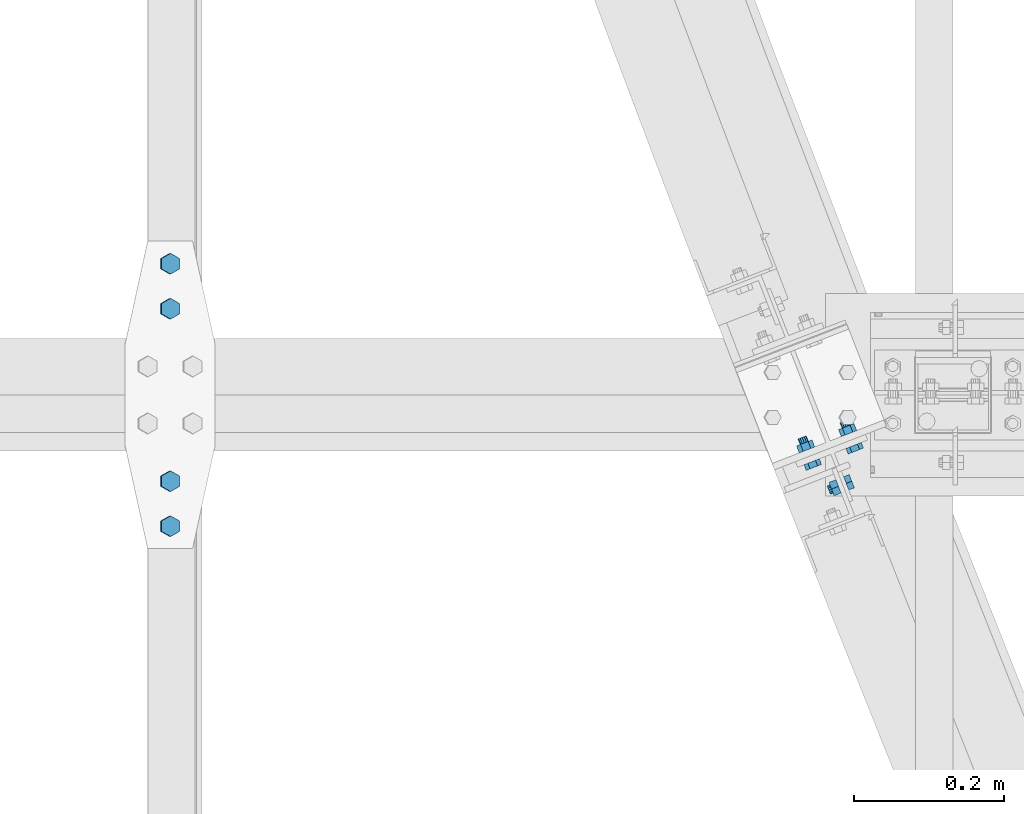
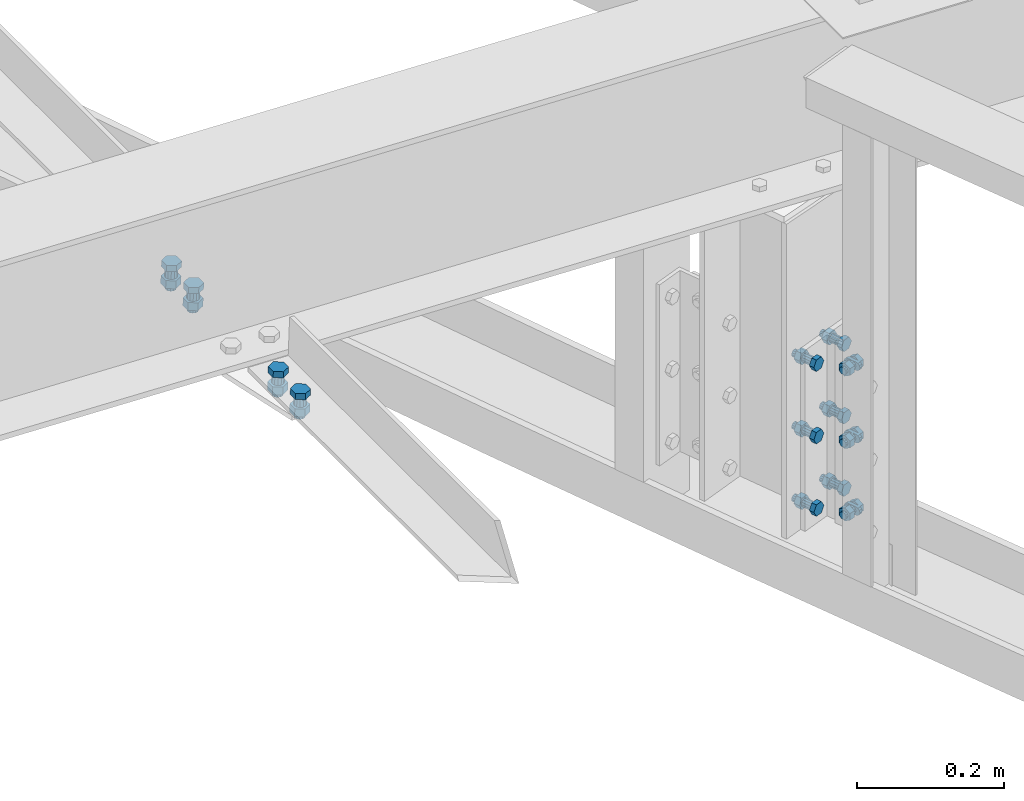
# One storey, part 43 of 3134: 4 mechanical fasteners, 4 elements without a shape of their own.
"""IFC2X3 building model written with IfcOpenShell, lengths in millimetres."""

from ifc_helpers import new_model, si_unit, frame, origin_with_axes, place, context, subcontext, project, spatial, faceted_brep, source, transform, mapped, material, type_object, element, aggregate, save


model = new_model("IFC2X3")

# Units and contexts
model_context = context("Model", 3, precision=1e-05, world=origin_with_axes())
body_context = subcontext(model_context, "Body", "Model", "MODEL_VIEW")
ifc_project = project(units=[si_unit("LENGTHUNIT", "METRE", prefix="MILLI"), si_unit("AREAUNIT", "SQUARE_METRE"), si_unit("VOLUMEUNIT", "CUBIC_METRE"), si_unit("MASSUNIT", "GRAM", prefix="KILO"), si_unit("TIMEUNIT", "SECOND"), si_unit("PLANEANGLEUNIT", "RADIAN"), si_unit("SOLIDANGLEUNIT", "STERADIAN"), si_unit("THERMODYNAMICTEMPERATUREUNIT", "DEGREE_CELSIUS"), si_unit("LUMINOUSINTENSITYUNIT", "LUMEN")], contexts=[model_context])

# Site, building, storey
site_placement = place(None, origin_with_axes())
site = spatial("IfcSite", under=ifc_project, at=site_placement, CompositionType="ELEMENT")
building_placement = place(site_placement, origin_with_axes())
building = spatial("IfcBuilding", under=site, at=building_placement, Name="Undefined", CompositionType="ELEMENT")
storey_placement = place(building_placement, origin_with_axes())
storey = spatial("IfcBuildingStorey", under=building, at=storey_placement, Name="Undefined", CompositionType="ELEMENT", Elevation=0.0)

# Assembly, mechanical fastener
assembly_1_placement = place(storey_placement, origin_with_axes())
assembly_1 = element("IfcElementAssembly", 1, at=assembly_1_placement, inside=storey, AssemblyPlace="NOTDEFINED", PredefinedType="RIGID_FRAME")
ifc_material = material(Name="8.8")
mechanical_fastener_type = type_object("IfcMechanicalFastenerType", Name="Bolt assembly")
shared_shape_1 = source(origin_with_axes(), body_context, "Body", "Brep", [
    faceted_brep([(10.9696551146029, -10.499999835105, 0.0), (5.48482755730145, -10.499999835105, 9.5), (-5.48482755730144, -10.499999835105, 9.5), (-10.9696551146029, -10.499999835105, 1.34339530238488e-15), (-5.48482755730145, -10.499999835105, -9.5), (5.48482755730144, -10.499999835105, -9.50000000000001), (5.48482755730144, -2.49999983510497, -9.50000000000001), (-5.48482755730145, -2.49999983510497, -9.5), (-10.9696551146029, -2.49999983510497, 1.34339530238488e-15), (-5.48482755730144, -2.49999983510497, 9.5), (5.48482755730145, -2.49999983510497, 9.5), (10.9696551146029, -2.49999983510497, 0.0), (6.0, -2.49999983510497, 0.0), (5.19615242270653, -2.49999983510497, 3.00000000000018), (2.99999999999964, -2.49999983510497, 5.19615242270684), (-6.21801588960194e-13, -2.49999983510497, 6.0), (-3.00000000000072, -2.49999983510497, 5.19615242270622), (-5.19615242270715, -2.49999983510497, 2.9999999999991), (-6.0, -2.49999983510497, -1.24360317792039e-12), (-5.19615242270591, -2.49999983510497, -3.00000000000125), (-2.99999999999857, -2.49999983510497, -5.19615242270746), (1.85874342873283e-12, -2.49999983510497, -6.0), (3.00000000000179, -2.49999983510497, -5.1961524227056), (5.19615242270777, -2.49999983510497, -2.99999999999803), (5.19615242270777, 22.5, -2.99999999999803), (3.00000000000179, 22.5, -5.1961524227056), (1.85874342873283e-12, 22.5, -6.0), (-2.99999999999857, 22.5, -5.19615242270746), (-5.19615242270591, 22.5, -3.00000000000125), (-6.0, 22.5, -1.24360317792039e-12), (-5.19615242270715, 22.5, 2.9999999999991), (-3.00000000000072, 22.5, 5.19615242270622), (-6.21801588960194e-13, 22.5, 6.0), (2.99999999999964, 22.5, 5.19615242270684), (5.19615242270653, 22.5, 3.00000000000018), (6.0, 22.5, 0.0), (10.9696551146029, 8.50160430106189, 0.0), (5.48482755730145, 8.50160430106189, 9.5), (-5.48482755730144, 8.50160430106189, 9.5), (-10.9696551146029, 8.50160430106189, 1.34339530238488e-15), (-5.48482755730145, 8.50160430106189, -9.5), (5.48482755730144, 8.50160430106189, -9.50000000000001), (5.48482755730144, 18.5016043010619, -9.50000000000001), (-5.48482755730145, 18.5016043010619, -9.5), (-10.9696551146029, 18.5016043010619, 1.34339530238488e-15), (-5.48482755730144, 18.5016043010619, 9.5), (5.48482755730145, 18.5016043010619, 9.5), (10.9696551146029, 18.5016043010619, 0.0)], [[[0, 1, 2, 3, 4, 5]], [[6, 7, 8, 9, 10, 11]], [[0, 11, 10, 1]], [[1, 10, 9, 2]], [[2, 9, 8, 3]], [[3, 8, 7, 4]], [[4, 7, 6, 5]], [[5, 6, 11, 0]], [[12, 13, 14, 15, 16, 17, 18, 19, 20, 21, 22, 23]], [[24, 25, 26, 27, 28, 29, 30, 31, 32, 33, 34, 35]], [[12, 35, 34, 13]], [[13, 34, 33, 14]], [[14, 33, 32, 15]], [[15, 32, 31, 16]], [[16, 31, 30, 17]], [[17, 30, 29, 18]], [[18, 29, 28, 19]], [[19, 28, 27, 20]], [[20, 27, 26, 21]], [[21, 26, 25, 22]], [[22, 25, 24, 23]], [[23, 24, 35, 12]], [[36, 37, 38, 39, 40, 41]], [[42, 43, 44, 45, 46, 47]], [[36, 47, 46, 37]], [[37, 46, 45, 38]], [[38, 45, 44, 39]], [[39, 44, 43, 40]], [[40, 43, 42, 41]], [[41, 42, 47, 36]]]),
    faceted_brep([(7.0, -2.39999983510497, 7.0), (6.46715672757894, -2.39999983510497, 9.6787840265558), (4.94974746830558, -2.39999983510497, 11.9497474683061), (-7.25435187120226e-13, -2.39999983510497, 14.0), (-3.50000000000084, -2.39999983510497, 13.0621778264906), (-6.06217782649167, -2.39999983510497, 10.499999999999), (-7.0, -2.39999983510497, 6.99999999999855), (-7.0, -2.39999983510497, -7.00000000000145), (-6.06217782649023, -2.39999983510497, -10.5000000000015), (-3.49999999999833, -2.39999983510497, -13.062177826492), (2.1685340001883e-12, -2.39999983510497, -14.0), (3.50000000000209, -2.39999983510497, -13.0621778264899), (6.0621778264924, -2.39999983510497, -10.4999999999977), (7.0, -2.39999983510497, -6.9999999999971), (7.0, 2.60000016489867, -6.9999999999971), (6.0621778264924, 2.60000016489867, -10.4999999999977), (3.50000000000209, 2.60000016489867, -13.0621778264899), (2.1685340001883e-12, 2.60000016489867, -14.0), (-3.49999999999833, 2.60000016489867, -13.062177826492), (-6.06217782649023, 2.60000016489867, -10.5000000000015), (-7.0, 2.60000016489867, -7.00000000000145), (-7.0, 2.60000016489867, 6.99999999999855), (-6.06217782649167, 2.60000016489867, 10.499999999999), (-3.50000000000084, 2.60000016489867, 13.0621778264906), (-7.25435187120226e-13, 2.60000016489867, 14.0), (2.67878402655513, 2.60000016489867, 13.4671567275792), (4.94974746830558, 2.60000016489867, 11.9497474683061), (6.46715672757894, 2.60000016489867, 9.6787840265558), (7.0, 2.60000016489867, 7.0), (2.67878402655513, -2.39999983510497, 13.4671567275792), (7.0, 2.40160430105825, 0.0), (6.06217782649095, 2.40160430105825, 3.50000000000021), (3.49999999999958, 2.40160430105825, 6.06217782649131), (-7.25435187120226e-13, 2.40160430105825, 7.0), (-3.50000000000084, 2.40160430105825, 6.06217782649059), (-6.06217782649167, 2.40160430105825, 3.49999999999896), (-7.0, 2.40160430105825, -1.45087037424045e-12), (-6.06217782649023, 2.40160430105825, -3.50000000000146), (-3.49999999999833, 2.40160430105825, -6.06217782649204), (2.1685340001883e-12, 2.40160430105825, -7.0), (3.50000000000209, 2.40160430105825, -6.06217782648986), (6.0621778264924, 2.40160430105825, -3.4999999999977), (6.0621778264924, 8.50160430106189, -3.4999999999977), (3.50000000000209, 8.50160430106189, -6.06217782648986), (2.1685340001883e-12, 8.50160430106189, -7.0), (-3.49999999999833, 8.50160430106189, -6.06217782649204), (-6.06217782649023, 8.50160430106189, -3.50000000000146), (-7.0, 8.50160430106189, -1.45087037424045e-12), (-6.06217782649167, 8.50160430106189, 3.49999999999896), (-3.50000000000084, 8.50160430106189, 6.06217782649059), (-7.25435187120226e-13, 8.50160430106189, 7.0), (3.49999999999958, 8.50160430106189, 6.06217782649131), (6.06217782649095, 8.50160430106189, 3.50000000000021), (7.0, 8.50160430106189, 0.0)], [[[0, 1, 2, 3, 4, 5, 6, 7, 8, 9, 10, 11, 12, 13]], [[14, 15, 16, 17, 18, 19, 20, 21, 22, 23, 24, 25, 26, 27, 28]], [[0, 28, 27, 1]], [[1, 27, 26, 2]], [[2, 26, 25, 29]], [[29, 25, 24, 3]], [[3, 24, 23, 4]], [[4, 23, 22, 5]], [[5, 22, 21, 6]], [[6, 21, 20, 7]], [[7, 20, 19, 8]], [[8, 19, 18, 9]], [[9, 18, 17, 10]], [[10, 17, 16, 11]], [[11, 16, 15, 12]], [[12, 15, 14, 13]], [[13, 14, 28, 0]], [[30, 31, 32, 33, 34, 35, 36, 37, 38, 39, 40, 41]], [[42, 43, 44, 45, 46, 47, 48, 49, 50, 51, 52, 53]], [[30, 53, 52, 31]], [[31, 52, 51, 32]], [[32, 51, 50, 33]], [[33, 50, 49, 34]], [[34, 49, 48, 35]], [[35, 48, 47, 36]], [[36, 47, 46, 37]], [[37, 46, 45, 38]], [[38, 45, 44, 39]], [[39, 44, 43, 40]], [[40, 43, 42, 41]], [[41, 42, 53, 30]]]),
])
mechanical_fastener_1_placement = place(assembly_1_placement, frame((5546.88789663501, 17201.1812489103, 3290.00065963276), z_axis=(-0.36275923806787, 0.931882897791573, 0.0), x_axis=(0.0, 0.0, -1.0)))
mechanical_fastener_1 = element("IfcMechanicalFastener", 2, at=mechanical_fastener_1_placement, type_object=mechanical_fastener_type, material=ifc_material, Name="Bolt assembly", NominalDiameter=12.0, NominalLength=25.0, context=body_context, shape_type="MappedRepresentation", body=[
    mapped(shared_shape_1, transform((0.0, 0.0, 0.0))),
    mapped(shared_shape_1, transform((120.0, 0.0, 0.0))),
    mapped(shared_shape_1, transform((240.0, 0.0, 0.0))),
])
aggregate(assembly_1, [mechanical_fastener_1])

assembly_2_placement = place(storey_placement, origin_with_axes())
assembly_2 = element("IfcElementAssembly", 3, at=assembly_2_placement, inside=storey, Name="HEA160", AssemblyPlace="NOTDEFINED", PredefinedType="RIGID_FRAME")
shared_shape_2 = source(origin_with_axes(), body_context, "Body", "Brep", [
    faceted_brep([(10.9696551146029, -16.0, 0.0), (5.48482755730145, -16.0, 9.5), (-5.48482755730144, -16.0, 9.5), (-10.9696551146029, -16.0, 1.34339530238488e-15), (-5.48482755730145, -16.0, -9.5), (5.48482755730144, -16.0, -9.50000000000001), (5.48482755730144, -8.0, -9.50000000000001), (-5.48482755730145, -8.0, -9.5), (-10.9696551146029, -8.0, 1.34339530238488e-15), (-5.48482755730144, -8.0, 9.5), (5.48482755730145, -8.0, 9.5), (10.9696551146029, -8.0, 0.0), (6.0, -8.0, 0.0), (5.19615242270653, -8.0, 3.00000000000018), (2.99999999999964, -8.0, 5.19615242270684), (-6.21801588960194e-13, -8.0, 6.0), (-3.00000000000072, -8.0, 5.19615242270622), (-5.19615242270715, -8.0, 2.9999999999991), (-6.0, -8.0, -1.24360317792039e-12), (-5.19615242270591, -8.0, -3.00000000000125), (-2.99999999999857, -8.0, -5.19615242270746), (1.85874342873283e-12, -8.0, -6.0), (3.00000000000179, -8.0, -5.1961524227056), (5.19615242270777, -8.0, -2.99999999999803), (5.19615242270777, 27.0, -2.99999999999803), (3.00000000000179, 27.0, -5.1961524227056), (1.85874342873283e-12, 27.0, -6.0), (-2.99999999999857, 27.0, -5.19615242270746), (-5.19615242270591, 27.0, -3.00000000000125), (-6.0, 27.0, -1.24360317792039e-12), (-5.19615242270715, 27.0, 2.9999999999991), (-3.00000000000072, 27.0, 5.19615242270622), (-6.21801588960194e-13, 27.0, 6.0), (2.99999999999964, 27.0, 5.19615242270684), (5.19615242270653, 27.0, 3.00000000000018), (6.0, 27.0, 0.0), (10.9696551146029, 9.00000000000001, 0.0), (5.48482755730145, 9.00000000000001, 9.5), (-5.48482755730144, 9.00000000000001, 9.5), (-10.9696551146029, 9.00000000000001, 1.34339530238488e-15), (-5.48482755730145, 9.00000000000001, -9.5), (5.48482755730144, 9.00000000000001, -9.50000000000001), (5.48482755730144, 19.0, -9.50000000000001), (-5.48482755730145, 19.0, -9.5), (-10.9696551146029, 19.0, 1.34339530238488e-15), (-5.48482755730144, 19.0, 9.5), (5.48482755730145, 19.0, 9.5), (10.9696551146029, 19.0, 0.0)], [[[0, 1, 2, 3, 4, 5]], [[6, 7, 8, 9, 10, 11]], [[0, 11, 10, 1]], [[1, 10, 9, 2]], [[2, 9, 8, 3]], [[3, 8, 7, 4]], [[4, 7, 6, 5]], [[5, 6, 11, 0]], [[12, 13, 14, 15, 16, 17, 18, 19, 20, 21, 22, 23]], [[24, 25, 26, 27, 28, 29, 30, 31, 32, 33, 34, 35]], [[12, 35, 34, 13]], [[13, 34, 33, 14]], [[14, 33, 32, 15]], [[15, 32, 31, 16]], [[16, 31, 30, 17]], [[17, 30, 29, 18]], [[18, 29, 28, 19]], [[19, 28, 27, 20]], [[20, 27, 26, 21]], [[21, 26, 25, 22]], [[22, 25, 24, 23]], [[23, 24, 35, 12]], [[36, 37, 38, 39, 40, 41]], [[42, 43, 44, 45, 46, 47]], [[36, 47, 46, 37]], [[37, 46, 45, 38]], [[38, 45, 44, 39]], [[39, 44, 43, 40]], [[40, 43, 42, 41]], [[41, 42, 47, 36]]]),
    faceted_brep([(7.0, -7.9, 0.0), (6.06217782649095, -7.9, 3.50000000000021), (3.49999999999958, -7.9, 6.06217782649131), (-7.25435187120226e-13, -7.9, 7.0), (-3.50000000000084, -7.9, 6.06217782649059), (-6.06217782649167, -7.9, 3.49999999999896), (-7.0, -7.9, -1.45087037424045e-12), (-6.06217782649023, -7.9, -3.50000000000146), (-3.49999999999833, -7.9, -6.06217782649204), (2.1685340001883e-12, -7.9, -7.0), (3.50000000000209, -7.9, -6.06217782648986), (6.0621778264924, -7.9, -3.4999999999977), (6.0621778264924, 0.0999999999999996, -3.4999999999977), (3.50000000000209, 0.0999999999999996, -6.06217782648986), (2.1685340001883e-12, 0.0999999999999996, -7.0), (-3.49999999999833, 0.0999999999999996, -6.06217782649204), (-6.06217782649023, 0.0999999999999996, -3.50000000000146), (-7.0, 0.0999999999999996, -1.45087037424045e-12), (-6.06217782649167, 0.0999999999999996, 3.49999999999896), (-3.50000000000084, 0.0999999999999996, 6.06217782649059), (-7.25435187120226e-13, 0.0999999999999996, 7.0), (3.49999999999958, 0.0999999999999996, 6.06217782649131), (6.06217782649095, 0.0999999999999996, 3.50000000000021), (7.0, 0.0999999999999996, 0.0), (7.0, -0.1, 0.0), (6.06217782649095, -0.1, 3.50000000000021), (3.49999999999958, -0.1, 6.06217782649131), (-7.25435187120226e-13, -0.1, 7.0), (-3.50000000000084, -0.1, 6.06217782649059), (-6.06217782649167, -0.1, 3.49999999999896), (-7.0, -0.1, -1.45087037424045e-12), (-6.06217782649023, -0.1, -3.50000000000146), (-3.49999999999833, -0.1, -6.06217782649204), (2.1685340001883e-12, -0.1, -7.0), (3.50000000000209, -0.1, -6.06217782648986), (6.0621778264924, -0.1, -3.4999999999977), (6.0621778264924, 9.00000000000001, -3.4999999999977), (3.50000000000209, 9.00000000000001, -6.06217782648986), (2.1685340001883e-12, 9.00000000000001, -7.0), (-3.49999999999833, 9.00000000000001, -6.06217782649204), (-6.06217782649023, 9.00000000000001, -3.50000000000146), (-7.0, 9.00000000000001, -1.45087037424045e-12), (-6.06217782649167, 9.00000000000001, 3.49999999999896), (-3.50000000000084, 9.00000000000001, 6.06217782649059), (-7.25435187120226e-13, 9.00000000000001, 7.0), (3.49999999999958, 9.00000000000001, 6.06217782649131), (6.06217782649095, 9.00000000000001, 3.50000000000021), (7.0, 9.00000000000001, 0.0)], [[[0, 1, 2, 3, 4, 5, 6, 7, 8, 9, 10, 11]], [[12, 13, 14, 15, 16, 17, 18, 19, 20, 21, 22, 23]], [[0, 23, 22, 1]], [[1, 22, 21, 2]], [[2, 21, 20, 3]], [[3, 20, 19, 4]], [[4, 19, 18, 5]], [[5, 18, 17, 6]], [[6, 17, 16, 7]], [[7, 16, 15, 8]], [[8, 15, 14, 9]], [[9, 14, 13, 10]], [[10, 13, 12, 11]], [[11, 12, 23, 0]], [[24, 25, 26, 27, 28, 29, 30, 31, 32, 33, 34, 35]], [[36, 37, 38, 39, 40, 41, 42, 43, 44, 45, 46, 47]], [[24, 47, 46, 25]], [[25, 46, 45, 26]], [[26, 45, 44, 27]], [[27, 44, 43, 28]], [[28, 43, 42, 29]], [[29, 42, 41, 30]], [[30, 41, 40, 31]], [[31, 40, 39, 32]], [[32, 39, 38, 33]], [[33, 38, 37, 34]], [[34, 37, 36, 35]], [[35, 36, 47, 24]]]),
])
mechanical_fastener_2_placement = place(assembly_2_placement, frame((5500.24787318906, 17238.2941225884, 3170.0), z_axis=(0.0, 0.0, 1.0), x_axis=(0.931882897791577, 0.362759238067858, 0.0)))
mechanical_fastener_2 = element("IfcMechanicalFastener", 4, at=mechanical_fastener_2_placement, type_object=mechanical_fastener_type, material=ifc_material, Name="Bolt assembly", NominalDiameter=12.0, NominalLength=35.0, context=body_context, shape_type="MappedRepresentation", body=[
    mapped(shared_shape_2, transform((0.0, 0.0, -120.0))),
    mapped(shared_shape_2, transform((60.0000000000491, 0.0, -120.0))),
    mapped(shared_shape_2, transform((0.0, 0.0, 0.0))),
    mapped(shared_shape_2, transform((59.9999999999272, 0.0, 5.40239852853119e-10))),
    mapped(shared_shape_2, transform((0.0, 0.0, 120.0))),
    mapped(shared_shape_2, transform((60.0000000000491, 0.0, 120.0))),
])
aggregate(assembly_2, [mechanical_fastener_2])

assembly_3_placement = place(storey_placement, origin_with_axes())
assembly_3 = element("IfcElementAssembly", 5, at=assembly_3_placement, inside=storey, Name="PL8", AssemblyPlace="NOTDEFINED", PredefinedType="RIGID_FRAME")
shared_shape_3 = source(origin_with_axes(), body_context, "Body", "Brep", [
    faceted_brep([(13.856406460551, -21.0000017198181, 0.0), (6.92820323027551, -21.0000017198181, 12.0), (-6.92820323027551, -21.0000017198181, 12.0), (-13.856406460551, -21.0000017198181, 1.69692038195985e-15), (-6.92820323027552, -21.0000017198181, -12.0), (6.9282032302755, -21.0000017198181, -12.0), (6.9282032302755, -11.0000017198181, -12.0), (-6.92820323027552, -11.0000017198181, -12.0), (-13.856406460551, -11.0000017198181, 1.69692038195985e-15), (-6.92820323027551, -11.0000017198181, 12.0), (6.92820323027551, -11.0000017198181, 12.0), (13.856406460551, -11.0000017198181, 0.0), (8.0, -11.0000017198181, 0.0), (6.92820323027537, -11.0000017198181, 4.00000000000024), (3.99999999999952, -11.0000017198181, 6.92820323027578), (-8.29068785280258e-13, -11.0000017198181, 8.0), (-4.00000000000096, -11.0000017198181, 6.92820323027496), (-6.9282032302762, -11.0000017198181, 3.99999999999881), (-8.0, -11.0000017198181, -1.65813757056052e-12), (-6.92820323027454, -11.0000017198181, -4.00000000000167), (-3.99999999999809, -11.0000017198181, -6.92820323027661), (2.47832457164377e-12, -11.0000017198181, -8.0), (4.00000000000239, -11.0000017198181, -6.92820323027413), (6.92820323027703, -11.0000017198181, -3.99999999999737), (6.92820323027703, 23.9999999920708, -3.99999999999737), (4.00000000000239, 23.9999999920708, -6.92820323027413), (2.47832457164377e-12, 23.9999999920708, -8.0), (-3.99999999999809, 23.9999999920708, -6.92820323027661), (-6.92820323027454, 23.9999999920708, -4.00000000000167), (-8.0, 23.9999999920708, -1.65813757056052e-12), (-6.9282032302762, 23.9999999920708, 3.99999999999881), (-4.00000000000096, 23.9999999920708, 6.92820323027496), (-8.29068785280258e-13, 23.9999999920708, 8.0), (3.99999999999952, 23.9999999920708, 6.92820323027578), (6.92820323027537, 23.9999999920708, 4.00000000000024), (8.0, 23.9999999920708, 0.0), (13.856406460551, 3.99999999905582, 0.0), (6.92820323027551, 3.99999999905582, 12.0), (-6.92820323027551, 3.99999999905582, 12.0), (-13.856406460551, 3.99999999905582, 1.69692038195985e-15), (-6.92820323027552, 3.99999999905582, -12.0), (6.9282032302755, 3.99999999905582, -12.0), (6.9282032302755, 16.9999999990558, -12.0), (-6.92820323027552, 16.9999999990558, -12.0), (-13.856406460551, 16.9999999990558, 1.69692038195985e-15), (-6.92820323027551, 16.9999999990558, 12.0), (6.92820323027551, 16.9999999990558, 12.0), (13.856406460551, 16.9999999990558, 0.0)], [[[0, 1, 2, 3, 4, 5]], [[6, 7, 8, 9, 10, 11]], [[0, 11, 10, 1]], [[1, 10, 9, 2]], [[2, 9, 8, 3]], [[3, 8, 7, 4]], [[4, 7, 6, 5]], [[5, 6, 11, 0]], [[12, 13, 14, 15, 16, 17, 18, 19, 20, 21, 22, 23]], [[24, 25, 26, 27, 28, 29, 30, 31, 32, 33, 34, 35]], [[12, 35, 34, 13]], [[13, 34, 33, 14]], [[14, 33, 32, 15]], [[15, 32, 31, 16]], [[16, 31, 30, 17]], [[17, 30, 29, 18]], [[18, 29, 28, 19]], [[19, 28, 27, 20]], [[20, 27, 26, 21]], [[21, 26, 25, 22]], [[22, 25, 24, 23]], [[23, 24, 35, 12]], [[36, 37, 38, 39, 40, 41]], [[42, 43, 44, 45, 46, 47]], [[36, 47, 46, 37]], [[37, 46, 45, 38]], [[38, 45, 44, 39]], [[39, 44, 43, 40]], [[40, 43, 42, 41]], [[41, 42, 47, 36]]]),
    faceted_brep([(9.0, -10.9000017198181, 0.0), (7.79422863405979, -10.9000017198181, 4.50000000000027), (4.49999999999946, -10.9000017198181, 7.79422863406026), (-9.3270238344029e-13, -10.9000017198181, 9.0), (-4.50000000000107, -10.9000017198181, 7.79422863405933), (-7.79422863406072, -10.9000017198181, 4.49999999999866), (-9.0, -10.9000017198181, -1.86540476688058e-12), (-7.79422863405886, -10.9000017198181, -4.50000000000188), (-4.49999999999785, -10.9000017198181, -7.79422863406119), (2.78811514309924e-12, -10.9000017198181, -9.0), (4.50000000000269, -10.9000017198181, -7.7942286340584), (7.79422863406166, -10.9000017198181, -4.49999999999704), (7.79422863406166, -3.9, -4.49999999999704), (4.50000000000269, -3.9, -7.7942286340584), (2.78811514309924e-12, -3.9, -9.0), (-4.49999999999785, -3.9, -7.79422863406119), (-7.79422863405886, -3.9, -4.50000000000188), (-9.0, -3.9, -1.86540476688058e-12), (-7.79422863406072, -3.9, 4.49999999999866), (-4.50000000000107, -3.9, 7.79422863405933), (-9.3270238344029e-13, -3.9, 9.0), (4.49999999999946, -3.9, 7.79422863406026), (7.79422863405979, -3.9, 4.50000000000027), (9.0, -3.9, 0.0), (9.0, -4.10000000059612, 0.0), (7.79422863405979, -4.10000000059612, 4.50000000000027), (4.49999999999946, -4.10000000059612, 7.79422863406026), (-9.3270238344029e-13, -4.10000000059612, 9.0), (-4.50000000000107, -4.10000000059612, 7.79422863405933), (-7.79422863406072, -4.10000000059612, 4.49999999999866), (-9.0, -4.10000000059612, -1.86540476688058e-12), (-7.79422863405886, -4.10000000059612, -4.50000000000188), (-4.49999999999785, -4.10000000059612, -7.79422863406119), (2.78811514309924e-12, -4.10000000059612, -9.0), (4.50000000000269, -4.10000000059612, -7.7942286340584), (7.79422863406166, -4.10000000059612, -4.49999999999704), (7.79422863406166, 4.00000375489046, -4.49999999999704), (4.50000000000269, 4.00000375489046, -7.7942286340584), (2.78811514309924e-12, 4.00000375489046, -9.0), (-4.49999999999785, 4.00000375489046, -7.79422863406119), (-7.79422863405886, 4.00000375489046, -4.50000000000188), (-9.0, 4.00000375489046, -1.86540476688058e-12), (-7.79422863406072, 4.00000375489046, 4.49999999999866), (-4.50000000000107, 4.00000375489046, 7.79422863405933), (-9.3270238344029e-13, 4.00000375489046, 9.0), (4.49999999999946, 4.00000375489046, 7.79422863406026), (7.79422863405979, 4.00000375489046, 4.50000000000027), (9.0, 4.00000375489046, 0.0)], [[[0, 1, 2, 3, 4, 5, 6, 7, 8, 9, 10, 11]], [[12, 13, 14, 15, 16, 17, 18, 19, 20, 21, 22, 23]], [[0, 23, 22, 1]], [[1, 22, 21, 2]], [[2, 21, 20, 3]], [[3, 20, 19, 4]], [[4, 19, 18, 5]], [[5, 18, 17, 6]], [[6, 17, 16, 7]], [[7, 16, 15, 8]], [[8, 15, 14, 9]], [[9, 14, 13, 10]], [[10, 13, 12, 11]], [[11, 12, 23, 0]], [[24, 25, 26, 27, 28, 29, 30, 31, 32, 33, 34, 35]], [[36, 37, 38, 39, 40, 41, 42, 43, 44, 45, 46, 47]], [[24, 47, 46, 25]], [[25, 46, 45, 26]], [[26, 45, 44, 27]], [[27, 44, 43, 28]], [[28, 43, 42, 29]], [[29, 42, 41, 30]], [[30, 41, 40, 31]], [[31, 40, 39, 32]], [[32, 39, 38, 33]], [[33, 38, 37, 34]], [[34, 37, 36, 35]], [[35, 36, 47, 24]]]),
])
mechanical_fastener_3_placement = place(assembly_3_placement, frame((4647.50483525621, 17435.0, 3576.15051900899), z_axis=(-0.999388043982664, 0.0, 0.0349791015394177), x_axis=(0.0, 1.0, 0.0)))
mechanical_fastener_3 = element("IfcMechanicalFastener", 6, at=mechanical_fastener_3_placement, type_object=mechanical_fastener_type, material=ifc_material, Name="Bolt assembly", NominalDiameter=16.0, NominalLength=35.0, context=body_context, shape_type="MappedRepresentation", body=[
    mapped(shared_shape_3, transform((0.0, 0.0, 0.0))),
    mapped(shared_shape_3, transform((59.9999999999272, 0.0, 5.40239852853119e-10))),
])
aggregate(assembly_3, [mechanical_fastener_3])

assembly_4_placement = place(storey_placement, origin_with_axes())
assembly_4 = element("IfcElementAssembly", 7, at=assembly_4_placement, inside=storey, AssemblyPlace="NOTDEFINED", PredefinedType="RIGID_FRAME")
shared_shape_4 = source(origin_with_axes(), body_context, "Body", "Brep", [
    faceted_brep([(13.856406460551, -21.0000017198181, 0.0), (6.92820323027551, -21.0000017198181, 12.0), (-6.92820323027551, -21.0000017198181, 12.0), (-13.856406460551, -21.0000017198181, 1.69692038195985e-15), (-6.92820323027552, -21.0000017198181, -12.0), (6.9282032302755, -21.0000017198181, -12.0), (6.9282032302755, -11.0000017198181, -12.0), (-6.92820323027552, -11.0000017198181, -12.0), (-13.856406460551, -11.0000017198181, 1.69692038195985e-15), (-6.92820323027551, -11.0000017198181, 12.0), (6.92820323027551, -11.0000017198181, 12.0), (13.856406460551, -11.0000017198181, 0.0), (8.0, -11.0000017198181, 0.0), (6.92820323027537, -11.0000017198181, 4.00000000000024), (3.99999999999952, -11.0000017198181, 6.92820323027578), (-8.29068785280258e-13, -11.0000017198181, 8.0), (-4.00000000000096, -11.0000017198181, 6.92820323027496), (-6.9282032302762, -11.0000017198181, 3.99999999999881), (-8.0, -11.0000017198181, -1.65813757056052e-12), (-6.92820323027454, -11.0000017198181, -4.00000000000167), (-3.99999999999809, -11.0000017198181, -6.92820323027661), (2.47832457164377e-12, -11.0000017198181, -8.0), (4.00000000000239, -11.0000017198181, -6.92820323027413), (6.92820323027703, -11.0000017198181, -3.99999999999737), (6.92820323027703, 23.9999999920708, -3.99999999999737), (4.00000000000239, 23.9999999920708, -6.92820323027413), (2.47832457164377e-12, 23.9999999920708, -8.0), (-3.99999999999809, 23.9999999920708, -6.92820323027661), (-6.92820323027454, 23.9999999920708, -4.00000000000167), (-8.0, 23.9999999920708, -1.65813757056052e-12), (-6.9282032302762, 23.9999999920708, 3.99999999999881), (-4.00000000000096, 23.9999999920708, 6.92820323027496), (-8.29068785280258e-13, 23.9999999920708, 8.0), (3.99999999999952, 23.9999999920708, 6.92820323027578), (6.92820323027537, 23.9999999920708, 4.00000000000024), (8.0, 23.9999999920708, 0.0), (13.856406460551, 3.99999999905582, 0.0), (6.92820323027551, 3.99999999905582, 12.0), (-6.92820323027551, 3.99999999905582, 12.0), (-13.856406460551, 3.99999999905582, 1.69692038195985e-15), (-6.92820323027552, 3.99999999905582, -12.0), (6.9282032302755, 3.99999999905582, -12.0), (6.9282032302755, 16.9999999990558, -12.0), (-6.92820323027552, 16.9999999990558, -12.0), (-13.856406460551, 16.9999999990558, 1.69692038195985e-15), (-6.92820323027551, 16.9999999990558, 12.0), (6.92820323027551, 16.9999999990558, 12.0), (13.856406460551, 16.9999999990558, 0.0)], [[[0, 1, 2, 3, 4, 5]], [[6, 7, 8, 9, 10, 11]], [[0, 11, 10, 1]], [[1, 10, 9, 2]], [[2, 9, 8, 3]], [[3, 8, 7, 4]], [[4, 7, 6, 5]], [[5, 6, 11, 0]], [[12, 13, 14, 15, 16, 17, 18, 19, 20, 21, 22, 23]], [[24, 25, 26, 27, 28, 29, 30, 31, 32, 33, 34, 35]], [[12, 35, 34, 13]], [[13, 34, 33, 14]], [[14, 33, 32, 15]], [[15, 32, 31, 16]], [[16, 31, 30, 17]], [[17, 30, 29, 18]], [[18, 29, 28, 19]], [[19, 28, 27, 20]], [[20, 27, 26, 21]], [[21, 26, 25, 22]], [[22, 25, 24, 23]], [[23, 24, 35, 12]], [[36, 37, 38, 39, 40, 41]], [[42, 43, 44, 45, 46, 47]], [[36, 47, 46, 37]], [[37, 46, 45, 38]], [[38, 45, 44, 39]], [[39, 44, 43, 40]], [[40, 43, 42, 41]], [[41, 42, 47, 36]]]),
    faceted_brep([(9.0, -4.10000000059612, 0.0), (7.79422863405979, -4.10000000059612, 4.50000000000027), (4.49999999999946, -4.10000000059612, 7.79422863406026), (-9.3270238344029e-13, -4.10000000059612, 9.0), (-4.50000000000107, -4.10000000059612, 7.79422863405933), (-7.79422863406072, -4.10000000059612, 4.49999999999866), (-9.0, -4.10000000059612, -1.86540476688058e-12), (-7.79422863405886, -4.10000000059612, -4.50000000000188), (-4.49999999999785, -4.10000000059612, -7.79422863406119), (2.78811514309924e-12, -4.10000000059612, -9.0), (4.50000000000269, -4.10000000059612, -7.7942286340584), (7.79422863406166, -4.10000000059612, -4.49999999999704), (7.79422863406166, 4.00000375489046, -4.49999999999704), (4.50000000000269, 4.00000375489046, -7.7942286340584), (2.78811514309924e-12, 4.00000375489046, -9.0), (-4.49999999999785, 4.00000375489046, -7.79422863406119), (-7.79422863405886, 4.00000375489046, -4.50000000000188), (-9.0, 4.00000375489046, -1.86540476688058e-12), (-7.79422863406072, 4.00000375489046, 4.49999999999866), (-4.50000000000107, 4.00000375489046, 7.79422863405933), (-9.3270238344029e-13, 4.00000375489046, 9.0), (4.49999999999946, 4.00000375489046, 7.79422863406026), (7.79422863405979, 4.00000375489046, 4.50000000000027), (9.0, 4.00000375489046, 0.0), (9.0, -10.9000017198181, 0.0), (7.79422863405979, -10.9000017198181, 4.50000000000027), (4.49999999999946, -10.9000017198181, 7.79422863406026), (-9.3270238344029e-13, -10.9000017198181, 9.0), (-4.50000000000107, -10.9000017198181, 7.79422863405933), (-7.79422863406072, -10.9000017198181, 4.49999999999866), (-9.0, -10.9000017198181, -1.86540476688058e-12), (-7.79422863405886, -10.9000017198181, -4.50000000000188), (-4.49999999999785, -10.9000017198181, -7.79422863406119), (2.78811514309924e-12, -10.9000017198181, -9.0), (4.50000000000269, -10.9000017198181, -7.7942286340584), (7.79422863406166, -10.9000017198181, -4.49999999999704), (7.79422863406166, -3.9, -4.49999999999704), (4.50000000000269, -3.9, -7.7942286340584), (2.78811514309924e-12, -3.9, -9.0), (-4.49999999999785, -3.9, -7.79422863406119), (-7.79422863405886, -3.9, -4.50000000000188), (-9.0, -3.9, -1.86540476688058e-12), (-7.79422863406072, -3.9, 4.49999999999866), (-4.50000000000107, -3.9, 7.79422863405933), (-9.3270238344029e-13, -3.9, 9.0), (4.49999999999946, -3.9, 7.79422863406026), (7.79422863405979, -3.9, 4.50000000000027), (9.0, -3.9, 0.0)], [[[0, 1, 2, 3, 4, 5, 6, 7, 8, 9, 10, 11]], [[12, 13, 14, 15, 16, 17, 18, 19, 20, 21, 22, 23]], [[0, 23, 22, 1]], [[1, 22, 21, 2]], [[2, 21, 20, 3]], [[3, 20, 19, 4]], [[4, 19, 18, 5]], [[5, 18, 17, 6]], [[6, 17, 16, 7]], [[7, 16, 15, 8]], [[8, 15, 14, 9]], [[9, 14, 13, 10]], [[10, 13, 12, 11]], [[11, 12, 23, 0]], [[24, 25, 26, 27, 28, 29, 30, 31, 32, 33, 34, 35]], [[36, 37, 38, 39, 40, 41, 42, 43, 44, 45, 46, 47]], [[24, 47, 46, 25]], [[25, 46, 45, 26]], [[26, 45, 44, 27]], [[27, 44, 43, 28]], [[28, 43, 42, 29]], [[29, 42, 41, 30]], [[30, 41, 40, 31]], [[31, 40, 39, 32]], [[32, 39, 38, 33]], [[33, 38, 37, 34]], [[34, 37, 36, 35]], [[35, 36, 47, 24]]]),
])
mechanical_fastener_4_placement = place(assembly_4_placement, frame((4647.50483526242, 17145.0, 3576.15051900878), z_axis=(-0.999388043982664, 0.0, 0.0349791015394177), x_axis=(0.0, 1.0, 0.0)))
mechanical_fastener_4 = element("IfcMechanicalFastener", 8, at=mechanical_fastener_4_placement, type_object=mechanical_fastener_type, material=ifc_material, Name="Bolt assembly", NominalDiameter=16.0, NominalLength=35.0, context=body_context, shape_type="MappedRepresentation", body=[
    mapped(shared_shape_4, transform((0.0, 0.0, 0.0))),
    mapped(shared_shape_4, transform((59.9999999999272, 0.0, 5.40239852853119e-10))),
])
aggregate(assembly_4, [mechanical_fastener_4])

save(model, "model.ifc")
